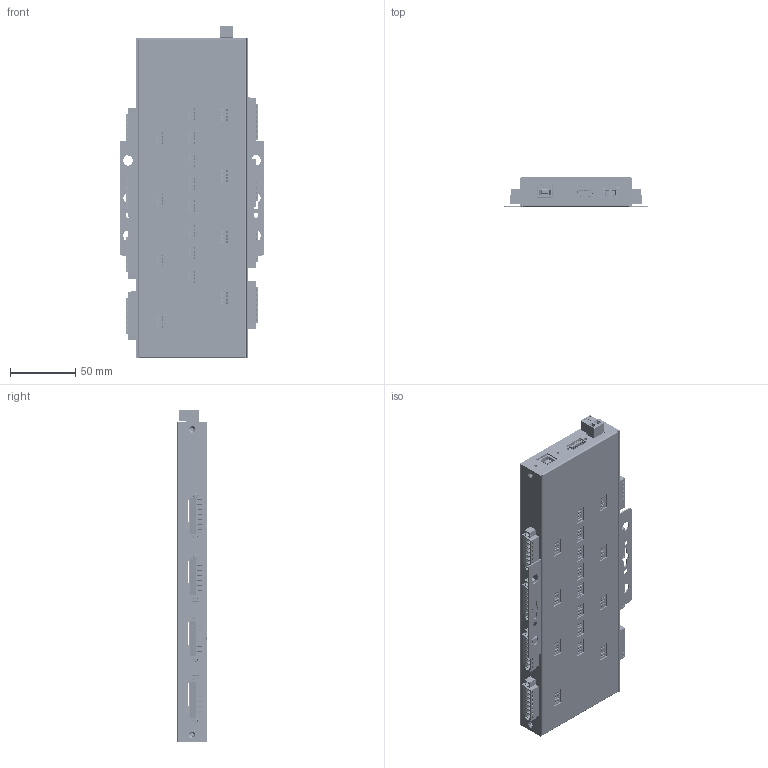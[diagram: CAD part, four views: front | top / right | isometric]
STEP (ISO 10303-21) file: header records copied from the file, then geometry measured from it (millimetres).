
FILE_DESCRIPTION(/* description */ (''),/* implementation_level */ '2;1');
FILE_NAME(/* name */ 'C:/Users/Leo/Desktop/AA CoolGear CADs/SA-8PX-IS/SA-8PX-IS Model3D LPV1.step',/* time_stamp */ '2021-07-16T14:36:03-04:00',/* author */ (''),/* organization */ (''),/* preprocessor_version */ 'ST-DEVELOPER v18.1',/* originating_system */ 'Autodesk Translation Framework v10.9.0.1377',/* authorisation */ '');
FILE_SCHEMA (('AUTOMOTIVE_DESIGN { 1 0 10303 214 3 1 1 }'));
Products named in the file (1): FusionComponent
Bounding box: 111.07 x 23.14 x 254.45 mm (x, y, z)
Volume: 126683.3 mm3; surface area: 207007 mm2
Topology: 18 solids, 36 shells, 14441 faces, 39092 edges, 25685 vertices
Faces by surface type: plane 11992, cylinder 1788, torus 328, cone 198, bspline 116, sphere 19
Full cylindrical faces by diameter (mm): 0.8 x32, 1 x2, 1.2 x56, 1.6 x2, 1.9 x72, 2 x128, 2.002 x16, 2.323 x6, 2.5 x16, 2.529 x6, 2.6 x16, 2.8 x112, 2.998 x17, 3 x28, 3.6 x16, 3.643 x17, 3.85 x16, 3.86 x2
Entity records: 466778 total; most frequent: CARTESIAN_POINT 99274, ORIENTED_EDGE 78142, DIRECTION 71729, EDGE_CURVE 39071, LINE 33233, VECTOR 33233, VERTEX_POINT 25685, AXIS2_PLACEMENT_3D 19248
